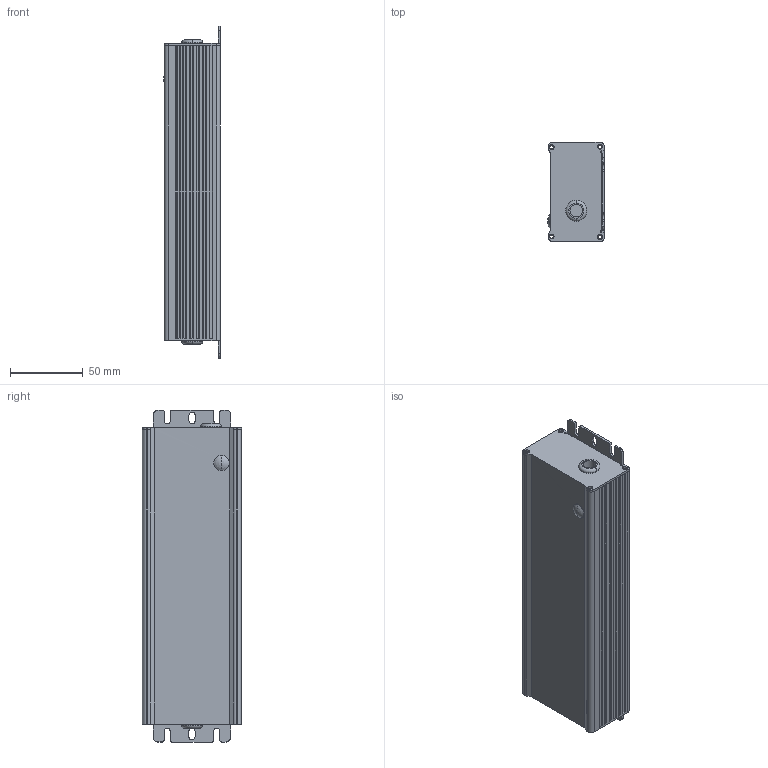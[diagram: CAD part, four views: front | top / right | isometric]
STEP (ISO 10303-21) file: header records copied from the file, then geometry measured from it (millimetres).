
FILE_DESCRIPTION(('Creo Elements/Direct Modeling STEP Export'),'2;1');
FILE_NAME('HLG-185-C-ATYPE.stp','2016-11-04T13:21:27',(''),(''),'PTC Creo Elements/Direct Modeling STEP processor for AP214 (Solid Model)','PTC Creo Elements/Direct Modeling 19.0 09-May-2014 (C) Parametric Technology GmbH','');
FILE_SCHEMA(('AUTOMOTIVE_DESIGN { 1 0 10303 214 1 1 1 1 }'));
Length unit declared in the file: millimetre
Products named in the file (4): CASE_PRT.PRT.1; HLG-240-A_1_ASM.ASM; HLG-240-A_STP.ASM; HLG-240-C.stp
Assembly tree (3 placements, depth 4):
  HLG-240-C.stp
    HLG-240-A_STP.ASM
      HLG-240-A_1_ASM.ASM
        CASE_PRT.PRT.1
Bounding box: 39.04 x 68.05 x 228 mm (x, y, z)
Volume: 96144.7 mm3; surface area: 104171.2 mm2
Topology: 1 solids, 1 shells, 258 faces, 747 edges, 485 vertices
Faces by surface type: plane 149, cylinder 87, cone 12, torus 8, sphere 2
Entity records: 10394 total; most frequent: ORIENTED_EDGE 1490, CARTESIAN_POINT 1463, DIRECTION 1366, EDGE_CURVE 745, VECTOR 502, LINE 502, VERTEX_POINT 485, AXIS2_PLACEMENT_3D 432
